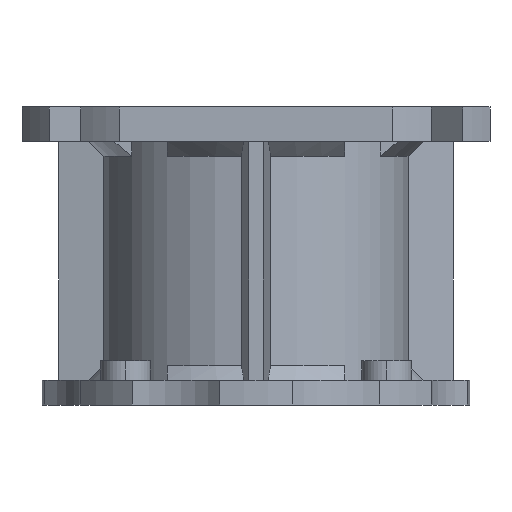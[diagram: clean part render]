
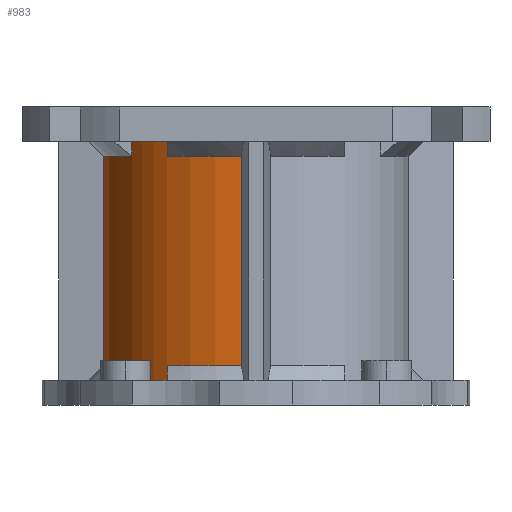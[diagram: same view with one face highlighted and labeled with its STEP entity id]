
A CAD part, left-side view. The second image highlights one B-rep face of the part: STEP entity #983.
In plain terms, the highlighted cylindrical face has radius 31 mm (diameter 62 mm), a partial arc.
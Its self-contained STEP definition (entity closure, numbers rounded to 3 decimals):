
#983=ADVANCED_FACE('',(#1100),#2932,.T.);
#1100=FACE_OUTER_BOUND('',#1223,.T.);
#1223=EDGE_LOOP('',(#1500,#1501,#1502,#1503,#1504,#1505,#1506,#1507,#1508,
#1509,#1510,#1511));
#1500=ORIENTED_EDGE('',*,*,#2018,.T.);
#1501=ORIENTED_EDGE('',*,*,#1975,.F.);
#1502=ORIENTED_EDGE('',*,*,#2019,.T.);
#1503=ORIENTED_EDGE('',*,*,#2020,.F.);
#1504=ORIENTED_EDGE('',*,*,#2021,.T.);
#1505=ORIENTED_EDGE('',*,*,#2022,.T.);
#1506=ORIENTED_EDGE('',*,*,#2023,.T.);
#1507=ORIENTED_EDGE('',*,*,#2017,.F.);
#1508=ORIENTED_EDGE('',*,*,#2024,.T.);
#1509=ORIENTED_EDGE('',*,*,#2025,.F.);
#1510=ORIENTED_EDGE('',*,*,#2026,.T.);
#1511=ORIENTED_EDGE('',*,*,#1960,.F.);
#1960=EDGE_CURVE('',#2723,#2724,#2462,.T.);
#1975=EDGE_CURVE('',#2753,#2750,#2477,.T.);
#2017=EDGE_CURVE('',#2863,#2862,#2491,.T.);
#2018=EDGE_CURVE('',#2723,#2750,#2304,.T.);
#2019=EDGE_CURVE('',#2753,#2819,#2305,.T.);
#2020=EDGE_CURVE('',#2818,#2819,#2492,.T.);
#2021=EDGE_CURVE('',#2818,#2864,#2306,.T.);
#2022=EDGE_CURVE('',#2864,#2865,#2493,.T.);
#2023=EDGE_CURVE('',#2865,#2862,#2307,.T.);
#2024=EDGE_CURVE('',#2863,#2844,#2308,.T.);
#2025=EDGE_CURVE('',#2843,#2844,#2494,.T.);
#2026=EDGE_CURVE('',#2843,#2724,#2309,.T.);
#2304=B_SPLINE_CURVE_WITH_KNOTS('',1,(#4589,#4590),.UNSPECIFIED.,.F.,.F.,
(2,2),(0.,42.5),.UNSPECIFIED.);
#2305=B_SPLINE_CURVE_WITH_KNOTS('',1,(#4591,#4592),.UNSPECIFIED.,.F.,.F.,
(2,2),(0.,3.),.UNSPECIFIED.);
#2306=B_SPLINE_CURVE_WITH_KNOTS('',1,(#4596,#4597),.UNSPECIFIED.,.F.,.F.,
(2,2),(0.,3.),.UNSPECIFIED.);
#2307=B_SPLINE_CURVE_WITH_KNOTS('',1,(#4601,#4602),.UNSPECIFIED.,.F.,.F.,
(2,2),(0.,42.5),.UNSPECIFIED.);
#2308=B_SPLINE_CURVE_WITH_KNOTS('',1,(#4603,#4604),.UNSPECIFIED.,.F.,.F.,
(2,2),(0.,3.),.UNSPECIFIED.);
#2309=B_SPLINE_CURVE_WITH_KNOTS('',1,(#4608,#4609),.UNSPECIFIED.,.F.,.F.,
(2,2),(0.,3.),.UNSPECIFIED.);
#2462=TRIMMED_CURVE($,#2592,(#4444),(#4445),.T.,.CARTESIAN.);
#2477=TRIMMED_CURVE($,#2607,(#4489),(#4490),.T.,.CARTESIAN.);
#2491=TRIMMED_CURVE($,#2621,(#4587),(#4588),.T.,.CARTESIAN.);
#2492=TRIMMED_CURVE($,#2622,(#4594),(#4595),.T.,.CARTESIAN.);
#2493=TRIMMED_CURVE($,#2623,(#4599),(#4600),.T.,.CARTESIAN.);
#2494=TRIMMED_CURVE($,#2624,(#4606),(#4607),.T.,.CARTESIAN.);
#2592=CIRCLE('',#3325,31.);
#2607=CIRCLE('',#3340,31.);
#2621=CIRCLE('',#3354,31.);
#2622=CIRCLE('',#3355,31.);
#2623=CIRCLE('',#3356,31.);
#2624=CIRCLE('',#3357,31.);
#2723=VERTEX_POINT('',#4234);
#2724=VERTEX_POINT('',#4235);
#2750=VERTEX_POINT('',#4261);
#2753=VERTEX_POINT('',#4264);
#2818=VERTEX_POINT('',#4329);
#2819=VERTEX_POINT('',#4330);
#2843=VERTEX_POINT('',#4354);
#2844=VERTEX_POINT('',#4355);
#2862=VERTEX_POINT('',#4373);
#2863=VERTEX_POINT('',#4374);
#2864=VERTEX_POINT('',#4375);
#2865=VERTEX_POINT('',#4376);
#2932=CYLINDRICAL_SURFACE('',#3228,31.);
#3228=AXIS2_PLACEMENT_3D('',#4098,#3463,$);
#3325=AXIS2_PLACEMENT_3D($,#4443,#3560,#3561);
#3340=AXIS2_PLACEMENT_3D($,#4488,#3590,#3591);
#3354=AXIS2_PLACEMENT_3D($,#4586,#3618,#3619);
#3355=AXIS2_PLACEMENT_3D($,#4593,#3620,#3621);
#3356=AXIS2_PLACEMENT_3D($,#4598,#3622,#3623);
#3357=AXIS2_PLACEMENT_3D($,#4605,#3624,#3625);
#3463=DIRECTION('',(1.,0.,0.));
#3560=DIRECTION('',(-1.,0.,0.));
#3561=DIRECTION('',(0.,0.095,0.995));
#3590=DIRECTION('',(1.,0.,0.));
#3591=DIRECTION('',(0.,0.581,0.814));
#3618=DIRECTION('',(-1.,0.,0.));
#3619=DIRECTION('',(0.,0.814,0.581));
#3620=DIRECTION('',(1.,0.,0.));
#3621=DIRECTION('',(0.,0.814,0.581));
#3622=DIRECTION('',(-1.,0.,0.));
#3623=DIRECTION('',(0.,0.814,0.581));
#3624=DIRECTION('',(-1.,0.,0.));
#3625=DIRECTION('',(0.,0.581,0.814));
#4098=CARTESIAN_POINT('',(29.25,0.,0.));
#4234=CARTESIAN_POINT('',(8.,2.948,30.86));
#4235=CARTESIAN_POINT('',(8.,18.,25.239));
#4261=CARTESIAN_POINT('',(50.5,2.948,30.86));
#4264=CARTESIAN_POINT('',(50.5,18.,25.239));
#4329=CARTESIAN_POINT('',(53.5,25.239,18.));
#4330=CARTESIAN_POINT('',(53.5,18.,25.239));
#4354=CARTESIAN_POINT('',(5.,18.,25.239));
#4355=CARTESIAN_POINT('',(5.,25.239,18.));
#4373=CARTESIAN_POINT('',(8.,30.86,2.948));
#4374=CARTESIAN_POINT('',(8.,25.239,18.));
#4375=CARTESIAN_POINT('',(50.5,25.239,18.));
#4376=CARTESIAN_POINT('',(50.5,30.86,2.948));
#4443=CARTESIAN_POINT('',(8.,0.,0.));
#4444=CARTESIAN_POINT('',(8.,2.948,30.86));
#4445=CARTESIAN_POINT('',(8.,18.,25.239));
#4488=CARTESIAN_POINT('',(50.5,0.,0.));
#4489=CARTESIAN_POINT('',(50.5,18.,25.239));
#4490=CARTESIAN_POINT('',(50.5,2.948,30.86));
#4586=CARTESIAN_POINT('',(8.,0.,0.));
#4587=CARTESIAN_POINT('',(8.,25.239,18.));
#4588=CARTESIAN_POINT('',(8.,30.86,2.948));
#4589=CARTESIAN_POINT('',(8.,2.948,30.86));
#4590=CARTESIAN_POINT('',(50.5,2.948,30.86));
#4591=CARTESIAN_POINT('',(50.5,18.,25.239));
#4592=CARTESIAN_POINT('',(53.5,18.,25.239));
#4593=CARTESIAN_POINT('',(53.5,0.,0.));
#4594=CARTESIAN_POINT('',(53.5,25.239,18.));
#4595=CARTESIAN_POINT('',(53.5,18.,25.239));
#4596=CARTESIAN_POINT('',(53.5,25.239,18.));
#4597=CARTESIAN_POINT('',(50.5,25.239,18.));
#4598=CARTESIAN_POINT('',(50.5,0.,0.));
#4599=CARTESIAN_POINT('',(50.5,25.239,18.));
#4600=CARTESIAN_POINT('',(50.5,30.86,2.948));
#4601=CARTESIAN_POINT('',(50.5,30.86,2.948));
#4602=CARTESIAN_POINT('',(8.,30.86,2.948));
#4603=CARTESIAN_POINT('',(8.,25.239,18.));
#4604=CARTESIAN_POINT('',(5.,25.239,18.));
#4605=CARTESIAN_POINT('',(5.,0.,0.));
#4606=CARTESIAN_POINT('',(5.,18.,25.239));
#4607=CARTESIAN_POINT('',(5.,25.239,18.));
#4608=CARTESIAN_POINT('',(5.,18.,25.239));
#4609=CARTESIAN_POINT('',(8.,18.,25.239));
